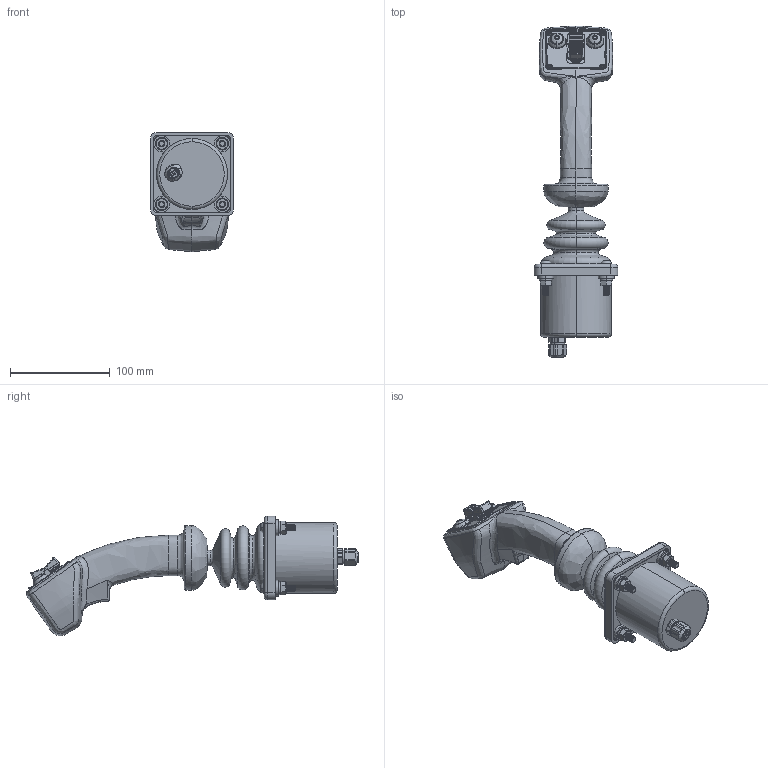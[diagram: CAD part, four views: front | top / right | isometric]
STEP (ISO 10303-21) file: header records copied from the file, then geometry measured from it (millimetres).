
FILE_DESCRIPTION (( 'STEP AP214' ), '1' );
FILE_NAME ('HG4140.STEP', '2017-11-28T23:22:10', ( '' ), ( '' ), 'SwSTEP 2.0', 'SolidWorks 2016', '' );
FILE_SCHEMA (( 'AUTOMOTIVE_DESIGN' ));
Length unit declared in the file: inch
Products named in the file (1): HG4140
Bounding box: 83.82 x 333.46 x 120 mm (x, y, z)
Surface area: 150117.9 mm2 (no closed solid volume)
Topology: 0 solids, 43 shells, 3994 faces, 11540 edges, 7732 vertices
Faces by surface type: plane 1827, cylinder 1112, cone 700, bspline 235, torus 84, sphere 36
Entity records: 338970 total; most frequent: CARTESIAN_POINT 186577, ORIENTED_EDGE 22986, DIRECTION 18052, EDGE_CURVE 11506, VERTEX_POINT 7732, AXIS2_PLACEMENT_3D 6228, LINE 5596, VECTOR 5596
